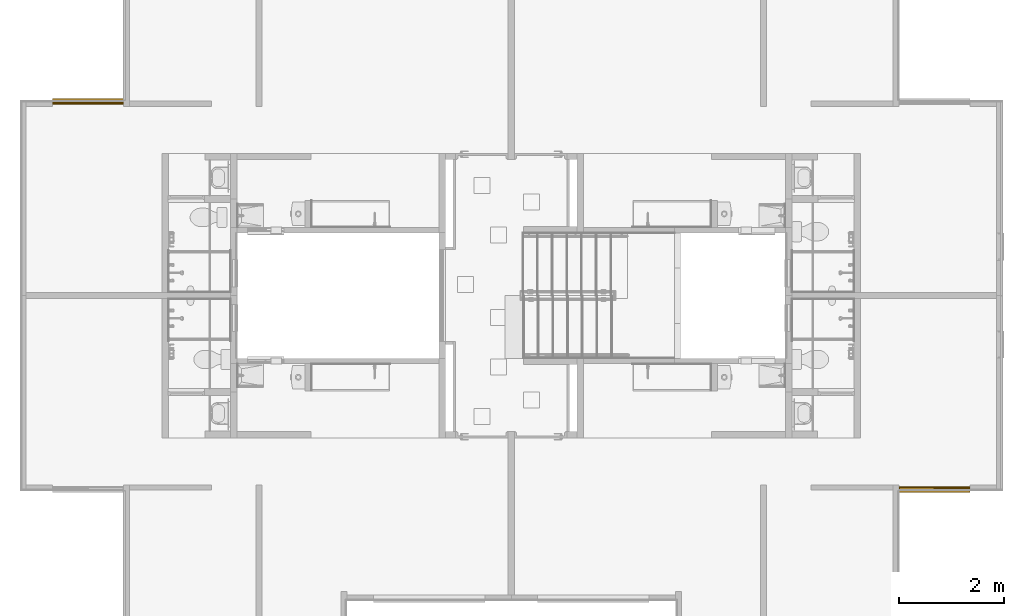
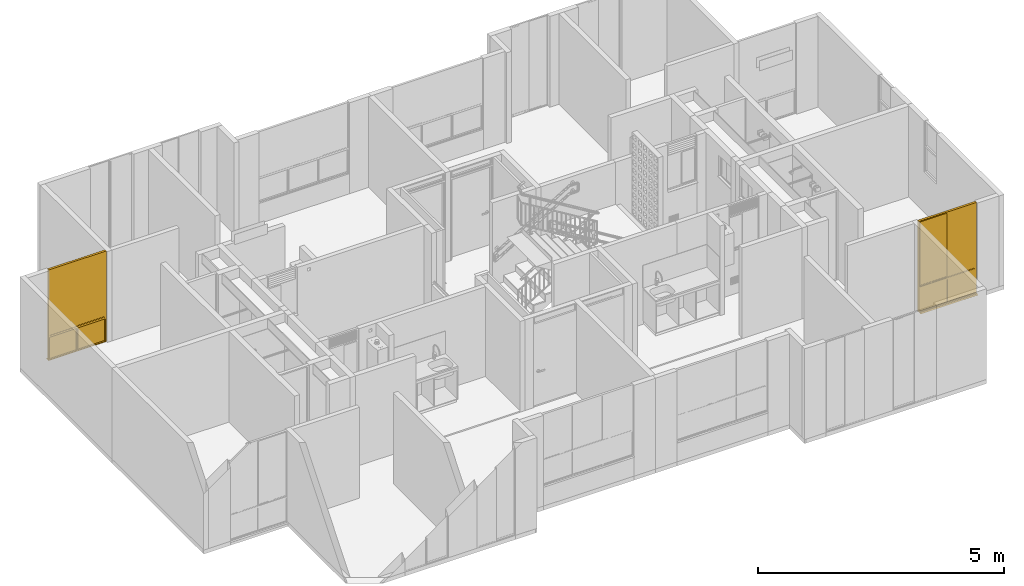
# One storey, part 35 of 48: 2 windows.
"""IFC4 building model written with IfcOpenShell, lengths in metres."""

from ifc_helpers import new_model, entity, si_unit, converted_unit, derived_unit, direction, frame, origin, place, context, subcontext, project, spatial, polygons, source, transform, mapped, material, constituent, constituent_set, type_object, type_shapes, element, save


model = new_model("IFC4")

# Units and contexts
model_context = context("Model", 3, precision=1e-05, world=origin(), true_north=direction((6.123031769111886e-17, 1.0)))
body_context = subcontext(model_context, "Body", "Model", "MODEL_VIEW")
ifc_project = project(units=[si_unit("LENGTHUNIT", "METRE"), si_unit("AREAUNIT", "SQUARE_METRE"), si_unit("VOLUMEUNIT", "CUBIC_METRE"), converted_unit("PLANEANGLEUNIT", "DEGREE", entity("IfcRatioMeasure", 0.017453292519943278), si_unit("PLANEANGLEUNIT", "RADIAN"), dimensions=[0, 0, 0, 0, 0, 0, 0]), si_unit("MASSUNIT", "GRAM", prefix="KILO"), derived_unit("MASSDENSITYUNIT", [(si_unit("MASSUNIT", "GRAM", prefix="KILO"), 1), (si_unit("LENGTHUNIT", "METRE"), -3)]), derived_unit("IONCONCENTRATIONUNIT", [(si_unit("MASSUNIT", "GRAM", prefix="KILO"), 1), (si_unit("LENGTHUNIT", "METRE"), -3)]), derived_unit("MOMENTOFINERTIAUNIT", [(si_unit("LENGTHUNIT", "METRE"), 4)]), si_unit("TIMEUNIT", "SECOND"), si_unit("FREQUENCYUNIT", "HERTZ"), si_unit("THERMODYNAMICTEMPERATUREUNIT", "DEGREE_CELSIUS"), derived_unit("THERMALTRANSMITTANCEUNIT", [(si_unit("MASSUNIT", "GRAM", prefix="KILO"), 1), (si_unit("THERMODYNAMICTEMPERATUREUNIT", "KELVIN"), -1), (si_unit("TIMEUNIT", "SECOND"), -3)]), derived_unit("THERMALCONDUCTANCEUNIT", [(si_unit("MASSUNIT", "GRAM", prefix="KILO"), 1), (si_unit("THERMODYNAMICTEMPERATUREUNIT", "KELVIN"), -1), (si_unit("TIMEUNIT", "SECOND"), -3), (si_unit("LENGTHUNIT", "METRE"), 1)]), derived_unit("VOLUMETRICFLOWRATEUNIT", [(si_unit("LENGTHUNIT", "METRE"), 3), (si_unit("TIMEUNIT", "SECOND"), -1)]), derived_unit("MASSFLOWRATEUNIT", [(si_unit("MASSUNIT", "GRAM", prefix="KILO"), 1), (si_unit("TIMEUNIT", "SECOND"), -1)]), derived_unit("ROTATIONALFREQUENCYUNIT", [(si_unit("TIMEUNIT", "SECOND"), -1)]), si_unit("ELECTRICCURRENTUNIT", "AMPERE"), si_unit("ELECTRICVOLTAGEUNIT", "VOLT"), si_unit("POWERUNIT", "WATT"), si_unit("FORCEUNIT", "NEWTON", prefix="KILO"), si_unit("ILLUMINANCEUNIT", "LUX"), si_unit("LUMINOUSFLUXUNIT", "LUMEN"), si_unit("LUMINOUSINTENSITYUNIT", "CANDELA"), derived_unit("USERDEFINED", [(si_unit("MASSUNIT", "GRAM", prefix="KILO"), -1), (si_unit("LENGTHUNIT", "METRE"), -2), (si_unit("TIMEUNIT", "SECOND"), 3), (si_unit("LUMINOUSFLUXUNIT", "LUMEN"), 1)]), derived_unit("USERDEFINED", [(si_unit("MASSUNIT", "GRAM", prefix="KILO"), 1), (si_unit("TIMEUNIT", "SECOND"), -3), (si_unit("LENGTHUNIT", "METRE"), 3), (si_unit("ELECTRICCURRENTUNIT", "AMPERE"), -2)]), derived_unit("SOUNDPOWERUNIT", [(si_unit("MASSUNIT", "GRAM", prefix="KILO"), 1), (si_unit("TIMEUNIT", "SECOND"), -3), (si_unit("LENGTHUNIT", "METRE"), 2)]), derived_unit("SOUNDPRESSUREUNIT", [(si_unit("MASSUNIT", "GRAM", prefix="KILO"), 1), (si_unit("LENGTHUNIT", "METRE"), -1), (si_unit("TIMEUNIT", "SECOND"), -2)]), derived_unit("LINEARVELOCITYUNIT", [(si_unit("LENGTHUNIT", "METRE"), 1), (si_unit("TIMEUNIT", "SECOND"), -1)]), si_unit("PRESSUREUNIT", "PASCAL"), derived_unit("USERDEFINED", [(si_unit("MASSUNIT", "GRAM", prefix="KILO"), 1), (si_unit("LENGTHUNIT", "METRE"), -2), (si_unit("TIMEUNIT", "SECOND"), -2)]), derived_unit("LINEARFORCEUNIT", [(si_unit("MASSUNIT", "GRAM", prefix="KILO"), 1), (si_unit("TIMEUNIT", "SECOND"), -2)]), derived_unit("PLANARFORCEUNIT", [(si_unit("MASSUNIT", "GRAM", prefix="KILO"), 1), (si_unit("LENGTHUNIT", "METRE"), -1), (si_unit("TIMEUNIT", "SECOND"), -2)]), derived_unit("SPECIFICHEATCAPACITYUNIT", [(si_unit("THERMODYNAMICTEMPERATUREUNIT", "KELVIN"), -1), (si_unit("LENGTHUNIT", "METRE"), 2), (si_unit("TIMEUNIT", "SECOND"), -2)]), derived_unit("HEATINGVALUEUNIT", [(si_unit("LENGTHUNIT", "METRE"), 2), (si_unit("TIMEUNIT", "SECOND"), -2)]), derived_unit("VAPORPERMEABILITYUNIT", [(si_unit("LENGTHUNIT", "METRE"), -1), (si_unit("TIMEUNIT", "SECOND"), 1)]), derived_unit("DYNAMICVISCOSITYUNIT", [(si_unit("MASSUNIT", "GRAM", prefix="KILO"), 1), (si_unit("TIMEUNIT", "SECOND"), -1), (si_unit("LENGTHUNIT", "METRE"), -1)]), derived_unit("THERMALEXPANSIONCOEFFICIENTUNIT", [(si_unit("THERMODYNAMICTEMPERATUREUNIT", "KELVIN"), -1)]), derived_unit("MODULUSOFELASTICITYUNIT", [(si_unit("MASSUNIT", "GRAM", prefix="KILO"), 1), (si_unit("LENGTHUNIT", "METRE"), -1), (si_unit("TIMEUNIT", "SECOND"), -2)]), derived_unit("ISOTHERMALMOISTURECAPACITYUNIT", [(si_unit("LENGTHUNIT", "METRE"), 3), (si_unit("MASSUNIT", "GRAM", prefix="KILO"), -1)]), derived_unit("MOISTUREDIFFUSIVITYUNIT", [(si_unit("TIMEUNIT", "SECOND"), -1), (si_unit("LENGTHUNIT", "METRE"), 2)])], contexts=[model_context])

# Site, building, storey
site_placement = place(None, origin())
site = spatial("IfcSite", under=ifc_project, at=site_placement, Name="Default", CompositionType="ELEMENT")
building_placement = place(site_placement, origin())
building = spatial("IfcBuilding", under=site, at=building_placement, CompositionType="ELEMENT")
storey_placement = place(building_placement, frame((0.0, 0.0, 4.700000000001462)))
storey = spatial("IfcBuildingStorey", under=building, at=storey_placement, Name="Nivel 3", CompositionType="ELEMENT", Elevation=4.700000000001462)

# Windows
ifc_material_1 = material(Name="Vidrio", Category="Materials")
ifc_constituent_1 = constituent(ifc_material_1, Name="Vidrio", Category="Materials")
ifc_material_2 = material(Name="Aluminio", Category="Materials")
ifc_constituent_2 = constituent(ifc_material_2, Name="Aluminio", Category="Materials")
ifc_material_3 = material(Name="<Unnamed>")
ifc_constituent_3 = constituent(ifc_material_3, Name="<Unnamed>")
ifc_constituent_set_1 = constituent_set(constituents=[ifc_constituent_1, ifc_constituent_2, ifc_constituent_3])
ifc_constituent_4 = constituent(ifc_material_1, Name="Vidrio", Category="Materials")
ifc_constituent_5 = constituent(ifc_material_2, Name="Aluminio", Category="Materials")
ifc_constituent_6 = constituent(ifc_material_3, Name="<Unnamed>")
ifc_constituent_set_2 = constituent_set(constituents=[ifc_constituent_4, ifc_constituent_5, ifc_constituent_6])
window_type = type_object("IfcWindowType", Name="B2020 - Ventana corrediza - Aluminio + Vidrio:B2020 - 1.35m x 2.25m - Ventana corrediza 2C - Aluminio + Vidrio", PartitioningType="NOTDEFINED", PredefinedType="WINDOW", material=ifc_constituent_set_2)
shared_shape = source(origin(), body_context, "Body", "Tessellation", [
    polygons([(0.020000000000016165, 0.044249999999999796, 2.2300000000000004), (0.020000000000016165, 0.044249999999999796, 0.6174999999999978), (0.6750000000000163, 0.04424999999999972, 0.6174999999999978), (0.6750000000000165, 0.04424999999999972, 2.2300000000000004), (0.6750000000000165, 0.04824999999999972, 2.2300000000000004), (0.020000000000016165, 0.04824999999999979, 2.2300000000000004), (0.6750000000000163, 0.04824999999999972, 0.6174999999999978), (0.020000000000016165, 0.04824999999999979, 0.6174999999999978)], [[[1, 2, 3, 4]], [[4, 5, 6, 1]], [[3, 7, 5, 4]], [[1, 6, 8, 2]], [[6, 5, 7, 8]], [[2, 8, 7, 3]]], closed=True),
    polygons([(1.3300000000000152, 0.04424999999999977, 2.2300000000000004), (0.6700000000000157, 0.044249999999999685, 2.2300000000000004), (0.6700000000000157, 0.044249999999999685, 0.6174999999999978), (1.3300000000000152, 0.04424999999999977, 0.6174999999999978), (1.3300000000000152, 0.048249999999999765, 0.6174999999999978), (1.3300000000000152, 0.048249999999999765, 2.2300000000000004), (0.6700000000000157, 0.04824999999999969, 2.2300000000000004), (0.6700000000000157, 0.04824999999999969, 0.6174999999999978)], [[[1, 2, 3, 4]], [[4, 5, 6, 1]], [[2, 7, 8, 3]], [[1, 6, 7, 2]], [[6, 5, 8, 7]], [[3, 8, 5, 4]]], closed=True),
    polygons([(0.6700000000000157, 0.048249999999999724, 0.6174999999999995), (0.6700000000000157, 0.048249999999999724, 2.230000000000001), (0.6700000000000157, 0.044249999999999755, 2.230000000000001), (0.6700000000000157, 0.044249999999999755, 0.6174999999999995), (1.3300000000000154, 0.04424999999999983, 2.230000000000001), (1.3300000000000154, 0.04424999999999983, 0.6174999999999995), (0.685000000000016, 0.044249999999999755, 2.2150000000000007), (0.685000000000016, 0.044249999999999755, 0.6324999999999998), (1.315000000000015, 0.04424999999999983, 0.6324999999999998), (1.315000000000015, 0.04424999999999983, 2.2150000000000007), (1.3300000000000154, 0.0482499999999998, 2.230000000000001), (1.3300000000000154, 0.0482499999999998, 0.6174999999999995), (0.685000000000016, 0.048249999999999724, 0.6324999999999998), (0.685000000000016, 0.048249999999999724, 2.2150000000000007), (1.315000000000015, 0.04824999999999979, 2.2150000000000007), (1.315000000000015, 0.04824999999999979, 0.6324999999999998), (0.685000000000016, 0.05299999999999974, 0.6324999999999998), (0.685000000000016, 0.05299999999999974, 2.2150000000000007), (1.315000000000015, 0.05299999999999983, 2.2150000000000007), (1.315000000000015, 0.05299999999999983, 0.6324999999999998), (0.6650000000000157, 0.05299999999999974, 0.6124999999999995), (0.6650000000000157, 0.05299999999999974, 2.2350000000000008), (1.3350000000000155, 0.05299999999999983, 2.2350000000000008), (1.3350000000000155, 0.05299999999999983, 0.6124999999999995), (0.6650000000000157, 0.03949999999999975, 0.6124999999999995), (0.6650000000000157, 0.03949999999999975, 2.2350000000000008), (1.3350000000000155, 0.03949999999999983, 2.2350000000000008), (1.3350000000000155, 0.03949999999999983, 0.6124999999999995), (0.685000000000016, 0.03949999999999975, 0.6324999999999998), (0.685000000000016, 0.03949999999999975, 2.2150000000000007), (1.315000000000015, 0.03949999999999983, 2.2150000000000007), (1.315000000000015, 0.03949999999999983, 0.6324999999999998)], [[[1, 2, 3, 4]], [[4, 3, 5, 6], [7, 8, 9, 10]], [[2, 11, 5, 3]], [[2, 1, 12, 11], [13, 14, 15, 16]], [[17, 18, 14, 13]], [[18, 19, 15, 14]], [[21, 22, 23, 24], [18, 17, 20, 19]], [[25, 26, 22, 21]], [[26, 27, 23, 22]], [[26, 25, 28, 27], [29, 30, 31, 32]], [[8, 7, 30, 29]], [[7, 10, 31, 30]], [[11, 12, 6, 5]], [[19, 20, 16, 15]], [[27, 28, 24, 23]], [[10, 9, 32, 31]], [[12, 1, 4, 6]], [[20, 17, 13, 16]], [[28, 25, 21, 24]], [[9, 8, 29, 32]]], closed=True),
    polygons([(0.6800000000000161, 0.06674999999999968, 2.229999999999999), (0.02000000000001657, 0.06674999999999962, 2.229999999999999), (0.02000000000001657, 0.06674999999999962, 0.6174999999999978), (0.6800000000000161, 0.06674999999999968, 0.6174999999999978), (0.6800000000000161, 0.07074999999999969, 0.6174999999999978), (0.6800000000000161, 0.07074999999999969, 2.229999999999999), (0.02000000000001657, 0.0707499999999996, 2.229999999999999), (0.02000000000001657, 0.0707499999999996, 0.6174999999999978)], [[[1, 2, 3, 4]], [[4, 5, 6, 1]], [[2, 7, 8, 3]], [[1, 6, 7, 2]], [[6, 5, 8, 7]], [[3, 8, 5, 4]]], closed=True),
    polygons([(0.020000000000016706, 0.07074999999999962, 0.6175), (0.020000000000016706, 0.07074999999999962, 2.2299999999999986), (0.020000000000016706, 0.06674999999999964, 2.2299999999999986), (0.020000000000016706, 0.06674999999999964, 0.6175), (0.6800000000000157, 0.06674999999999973, 2.2299999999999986), (0.6800000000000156, 0.06674999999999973, 0.6175000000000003), (0.035000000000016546, 0.06674999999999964, 2.214999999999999), (0.035000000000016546, 0.06674999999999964, 0.6324999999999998), (0.6650000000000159, 0.06674999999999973, 0.6324999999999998), (0.6650000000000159, 0.06674999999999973, 2.214999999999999), (0.6800000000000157, 0.0707499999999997, 2.2299999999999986), (0.6800000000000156, 0.0707499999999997, 0.6175), (0.035000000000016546, 0.07074999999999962, 0.6324999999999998), (0.035000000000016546, 0.07074999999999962, 2.214999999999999), (0.6650000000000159, 0.0707499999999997, 2.214999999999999), (0.6650000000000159, 0.0707499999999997, 0.6324999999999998), (0.035000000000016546, 0.07549999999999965, 0.6324999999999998), (0.035000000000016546, 0.07549999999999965, 2.214999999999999), (0.6650000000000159, 0.07549999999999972, 2.214999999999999), (0.6650000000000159, 0.07549999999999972, 0.6324999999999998), (0.015000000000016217, 0.07549999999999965, 0.6124999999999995), (0.015000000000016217, 0.07549999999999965, 2.2349999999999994), (0.6850000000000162, 0.07549999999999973, 2.2349999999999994), (0.685000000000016, 0.07549999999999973, 0.6124999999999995), (0.015000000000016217, 0.06199999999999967, 0.6124999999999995), (0.015000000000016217, 0.06199999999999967, 2.2349999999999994), (0.6850000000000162, 0.06199999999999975, 2.2349999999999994), (0.685000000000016, 0.06199999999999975, 0.6124999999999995), (0.035000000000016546, 0.06199999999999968, 0.6324999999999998), (0.035000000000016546, 0.06199999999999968, 2.214999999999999), (0.6650000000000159, 0.06199999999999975, 2.214999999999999), (0.6650000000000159, 0.06199999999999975, 0.6324999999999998)], [[[1, 2, 3, 4]], [[4, 3, 5, 6], [7, 8, 9, 10]], [[2, 11, 5, 3]], [[2, 1, 12, 11], [13, 14, 15, 16]], [[17, 18, 14, 13]], [[18, 19, 15, 14]], [[21, 22, 23, 24], [18, 17, 20, 19]], [[25, 26, 22, 21]], [[26, 27, 23, 22]], [[26, 25, 28, 27], [29, 30, 31, 32]], [[8, 7, 30, 29]], [[7, 10, 31, 30]], [[11, 12, 6, 5]], [[19, 20, 16, 15]], [[27, 28, 24, 23]], [[10, 9, 32, 31]], [[12, 1, 4, 6]], [[20, 17, 13, 16]], [[28, 25, 21, 24]], [[9, 8, 29, 32]]], closed=True),
    polygons([(0.025000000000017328, 0.037499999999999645, 2.224999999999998), (1.3250000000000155, 0.037499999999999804, 2.2249999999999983), (1.3250000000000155, 0.03249999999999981, 2.2249999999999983), (0.025000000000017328, 0.03249999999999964, 2.224999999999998), (1.325000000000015, 0.037499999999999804, 0.6200000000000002), (1.3250000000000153, 0.03249999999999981, 0.6200000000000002), (0.025000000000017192, 0.03249999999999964, 0.6200000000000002), (1.3500000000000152, 0.03249999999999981, 0.595), (1.3500000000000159, 0.03249999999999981, 2.2499999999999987), (1.6919798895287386e-14, 0.03249999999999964, 2.2499999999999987), (1.6919798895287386e-14, 0.03249999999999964, 0.595), (0.025000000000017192, 0.037499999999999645, 0.6200000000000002), (1.345000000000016, 0.037499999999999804, 2.2449999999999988), (1.3450000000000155, 0.037499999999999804, 0.5999999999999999), (0.005000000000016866, 0.037499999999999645, 0.5999999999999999), (0.005000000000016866, 0.037499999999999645, 2.2449999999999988), (0.005000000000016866, 0.054999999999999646, 2.2449999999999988), (1.345000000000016, 0.05499999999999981, 2.2449999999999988), (1.3450000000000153, 0.05499999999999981, 0.5999999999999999), (0.005000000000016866, 0.054999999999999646, 0.5999999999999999), (1.3250000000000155, 0.054999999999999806, 2.2249999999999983), (1.3250000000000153, 0.054999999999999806, 0.6200000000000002), (0.025000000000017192, 0.05499999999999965, 0.6200000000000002), (0.025000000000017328, 0.05499999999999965, 2.2249999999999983), (0.025000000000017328, 0.05999999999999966, 2.224999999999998), (1.3250000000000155, 0.05999999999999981, 2.2249999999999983), (1.325000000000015, 0.05999999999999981, 0.6200000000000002), (0.025000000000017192, 0.05999999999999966, 0.6200000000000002), (1.345000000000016, 0.05999999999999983, 2.2449999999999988), (1.3450000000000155, 0.05999999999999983, 0.5999999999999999), (0.005000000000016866, 0.05999999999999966, 0.5999999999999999), (0.005000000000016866, 0.05999999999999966, 2.2449999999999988), (0.005000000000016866, 0.07749999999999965, 2.2449999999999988), (1.345000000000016, 0.07749999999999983, 2.2449999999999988), (1.3450000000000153, 0.07749999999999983, 0.5999999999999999), (0.005000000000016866, 0.07749999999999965, 0.5999999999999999), (1.3250000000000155, 0.07749999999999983, 2.2249999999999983), (1.3250000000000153, 0.07749999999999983, 0.6200000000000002), (0.025000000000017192, 0.07749999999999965, 0.6200000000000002), (0.025000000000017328, 0.07749999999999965, 2.2249999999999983), (0.025000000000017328, 0.08249999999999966, 2.224999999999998), (1.3250000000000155, 0.08249999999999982, 2.2249999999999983), (1.325000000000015, 0.08249999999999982, 0.6200000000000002), (0.025000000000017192, 0.08249999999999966, 0.6200000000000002), (1.3500000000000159, 0.08249999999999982, 2.2499999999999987), (1.3500000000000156, 0.08249999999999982, 0.595), (1.6919798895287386e-14, 0.08249999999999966, 0.595), (1.6919798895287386e-14, 0.08249999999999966, 2.2499999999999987)], [[[1, 2, 3, 4]], [[2, 5, 6, 3]], [[8, 9, 10, 11], [3, 6, 7, 4]], [[13, 14, 15, 16], [5, 2, 1, 12]], [[17, 18, 13, 16]], [[18, 19, 14, 13]], [[19, 18, 17, 20], [21, 22, 23, 24]], [[25, 26, 21, 24]], [[26, 27, 22, 21]], [[29, 30, 31, 32], [27, 26, 25, 28]], [[33, 34, 29, 32]], [[34, 35, 30, 29]], [[35, 34, 33, 36], [37, 38, 39, 40]], [[41, 42, 37, 40]], [[42, 43, 38, 37]], [[45, 46, 47, 48], [43, 42, 41, 44]], [[10, 9, 45, 48]], [[9, 8, 46, 45]], [[12, 1, 4, 7]], [[20, 17, 16, 15]], [[28, 25, 24, 23]], [[36, 33, 32, 31]], [[44, 41, 40, 39]], [[11, 10, 48, 47]], [[5, 12, 7, 6]], [[19, 20, 15, 14]], [[27, 28, 23, 22]], [[35, 36, 31, 30]], [[43, 44, 39, 38]], [[8, 11, 47, 46]]], closed=True),
    polygons([(1.330000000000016, 0.08250000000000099, 0.5749999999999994), (1.330000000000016, 0.08250000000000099, 0.020000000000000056), (1.330000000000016, 0.0324999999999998, 0.020000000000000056), (1.330000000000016, 0.03249999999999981, 0.5749999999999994), (0.6850000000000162, 0.08250000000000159, 0.01999999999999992), (0.6850000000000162, 0.03250000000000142, 0.01999999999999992), (1.3500000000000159, 0.03250000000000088, 0.5949999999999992), (1.3500000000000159, 0.03250000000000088, 2.707167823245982e-16), (1.3500000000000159, 0.08249999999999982, 2.707167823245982e-16), (1.3500000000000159, 0.08249999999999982, 0.5949999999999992), (1.624300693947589e-14, 0.03250000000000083, 2.707167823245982e-16), (1.624300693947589e-14, 0.08249999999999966, 2.707167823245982e-16), (0.020000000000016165, 0.08250000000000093, 0.020000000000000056), (0.020000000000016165, 0.08250000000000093, 0.5749999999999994), (0.02000000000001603, 0.03249999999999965, 0.5749999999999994), (0.02000000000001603, 0.03249999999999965, 0.020000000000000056), (1.624300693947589e-14, 0.03250000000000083, 0.5949999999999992), (1.624300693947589e-14, 0.08249999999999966, 0.5949999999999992), (0.6650000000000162, 0.08250000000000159, 0.5749999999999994), (0.6650000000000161, 0.03250000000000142, 0.5749999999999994), (0.6650000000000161, 0.08250000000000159, 0.01999999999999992), (0.6650000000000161, 0.03250000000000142, 0.01999999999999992), (0.6850000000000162, 0.03250000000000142, 0.5749999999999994), (0.6850000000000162, 0.08250000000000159, 0.5749999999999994)], [[[1, 2, 3, 4]], [[2, 5, 6, 3]], [[7, 8, 9, 10]], [[8, 11, 12, 9]], [[13, 14, 15, 16]], [[11, 17, 18, 12]], [[14, 19, 20, 15]], [[10, 18, 17, 7]], [[21, 22, 20, 19]], [[7, 17, 11, 8], [22, 16, 15, 20], [23, 4, 3, 6]], [[24, 23, 6, 5]], [[9, 12, 18, 10], [5, 2, 1, 24], [19, 14, 13, 21]], [[4, 23, 24, 1]], [[16, 22, 21, 13]]], closed=True),
    polygons([(0.6650000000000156, 0.07213901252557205, 0.019999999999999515), (0.6650000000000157, 0.06813901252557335, 0.019999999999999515), (0.020000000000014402, 0.06813901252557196, 0.019999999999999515), (0.020000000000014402, 0.07213901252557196, 0.019999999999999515), (0.6650000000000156, 0.07213901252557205, 0.5849999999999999), (0.020000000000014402, 0.07213901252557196, 0.5849999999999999), (0.020000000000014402, 0.06813901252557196, 0.5849999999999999), (0.6650000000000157, 0.06813901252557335, 0.5849999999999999)], [[[1, 2, 3, 4]], [[5, 1, 4, 6]], [[6, 4, 3, 7]], [[7, 3, 2, 8]], [[8, 2, 1, 5]], [[5, 6, 7, 8]]], closed=True),
    polygons([(0.6850000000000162, 0.07213901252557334, 0.019999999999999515), (1.3300000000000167, 0.07213901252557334, 0.019999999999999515), (1.3300000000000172, 0.06813901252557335, 0.019999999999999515), (0.6850000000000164, 0.06813901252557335, 0.019999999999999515), (0.6850000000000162, 0.07213901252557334, 0.5849999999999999), (0.6850000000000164, 0.06813901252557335, 0.5849999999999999), (1.3300000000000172, 0.06813901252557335, 0.5849999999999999), (1.3300000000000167, 0.07213901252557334, 0.5849999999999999)], [[[1, 2, 3, 4]], [[5, 1, 4, 6]], [[6, 4, 3, 7]], [[7, 3, 2, 8]], [[8, 2, 1, 5]], [[5, 6, 7, 8]]], closed=True),
    polygons([(1.350000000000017, 0.11499999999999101, -4.060751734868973e-16), (1.350000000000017, 0.14098076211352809, -0.015000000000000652), (1.350000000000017, 0.14348076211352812, -0.010669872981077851), (1.350000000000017, 0.11633974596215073, 0.0049999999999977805), (1.350000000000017, 0.08249999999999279, 0.0049999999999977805), (1.350000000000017, 0.08249999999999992, -4.060751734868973e-16), (1.7461232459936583e-14, 0.11499999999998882, -4.060751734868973e-16), (1.7461232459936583e-14, 0.08249999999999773, -4.060751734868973e-16), (1.7461232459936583e-14, 0.08249999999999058, 0.0049999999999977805), (1.7461232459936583e-14, 0.11633974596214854, 0.0049999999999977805), (1.7325874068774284e-14, 0.14348076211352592, -0.010669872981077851), (1.7325874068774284e-14, 0.1409807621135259, -0.015000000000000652)], [[[1, 2, 3, 4, 5, 6]], [[7, 8, 9, 10, 11, 12]], [[6, 8, 7, 1]], [[5, 9, 8, 6]], [[4, 10, 9, 5]], [[3, 11, 10, 4]], [[2, 12, 11, 3]], [[1, 7, 12, 2]]], closed=True),
])
type_shapes(window_type, [shared_shape])
window_1_placement = place(storey_placement, frame((0.5674999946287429, -2.810000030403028, 0.0)))
element("IfcWindow", 1, at=window_1_placement, inside=storey, type_object=window_type, material=ifc_constituent_set_1, Name="B2020 - Ventana corrediza - Aluminio + Vidrio:B2020 - 1.35m x 2.25m - Ventana corrediza 2C - Aluminio + Vidrio", ObjectType="B2020 - Ventana corrediza - Aluminio + Vidrio:B2020 - 1.35m x 2.25m - Ventana corrediza 2C - Aluminio + Vidrio", OverallHeight=2.265, OverallWidth=1.3500000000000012, PartitioningType="NOTDEFINED", PredefinedType="WINDOW", context=body_context, shape_type="MappedRepresentation", body=[
    mapped(shared_shape, transform((0.0, 0.0, 0.0), scale=1.0)),
])
ifc_constituent_7 = constituent(ifc_material_1, Name="Vidrio", Category="Materials")
ifc_constituent_8 = constituent(ifc_material_2, Name="Aluminio", Category="Materials")
ifc_constituent_9 = constituent(ifc_material_3, Name="<Unnamed>")
ifc_constituent_set_3 = constituent_set(constituents=[ifc_constituent_7, ifc_constituent_8, ifc_constituent_9])
window_2_placement = place(storey_placement, frame((18.077500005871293, -10.040000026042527, 0.0), z_axis=(0.0, 0.0, 1.0), x_axis=(-1.0, 0.0, 0.0)))
element("IfcWindow", 2, at=window_2_placement, inside=storey, type_object=window_type, material=ifc_constituent_set_3, Name="B2020 - Ventana corrediza - Aluminio + Vidrio:B2020 - 1.35m x 2.25m - Ventana corrediza 2C - Aluminio + Vidrio", ObjectType="B2020 - Ventana corrediza - Aluminio + Vidrio:B2020 - 1.35m x 2.25m - Ventana corrediza 2C - Aluminio + Vidrio", OverallHeight=2.265, OverallWidth=1.3500000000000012, PartitioningType="NOTDEFINED", PredefinedType="WINDOW", context=body_context, shape_type="MappedRepresentation", body=[
    mapped(shared_shape, transform((0.0, 0.0, 0.0), scale=1.0)),
])

save(model, "model.ifc")
